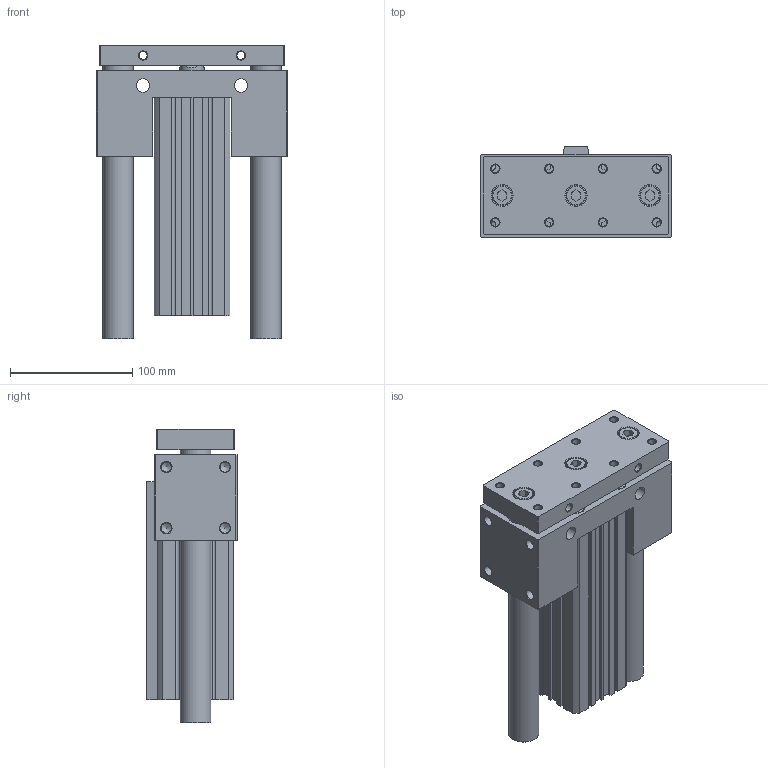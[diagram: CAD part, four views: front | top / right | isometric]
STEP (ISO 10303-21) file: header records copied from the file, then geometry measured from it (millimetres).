
FILE_DESCRIPTION((''),'2;1');
FILE_NAME('I:\3D電子目錄\氣缸\JCB\JCB\JCB50\JCB50x150.stp','2007-08-30T16:28:11',('Administrator'),(''),'Autodesk Inventor 11','Autodesk Inventor 11','');
FILE_SCHEMA(('AUTOMOTIVE_DESIGN { 1 0 10303 214 1 1 1 1 }'));
Length unit declared in the file: millimetre
Products named in the file (1): JCB50
Bounding box: 156 x 74 x 240.5 mm (x, y, z)
Volume: 1417587 mm3; surface area: 238644.8 mm2
Topology: 3 solids, 3 shells, 328 faces, 786 edges, 510 vertices
Faces by surface type: plane 190, cylinder 58, cone 45, bspline 31, torus 4
Full cylindrical faces by diameter (mm): 2.7 x2, 6.8 x4, 8.376 x4, 11 x8, 13 x4, 14 x4, 16 x3, 17.5 x3, 20 x1, 21 x1, 25 x2, 28 x2, 37 x1, 38 x1, 52 x4, 55 x2
Entity records: 9390 total; most frequent: CARTESIAN_POINT 2294, DIRECTION 1434, ORIENTED_EDGE 1264, EDGE_CURVE 632, EDGE_LOOP 536, AXIS2_PLACEMENT_3D 512, VERTEX_POINT 480, VECTOR 410
